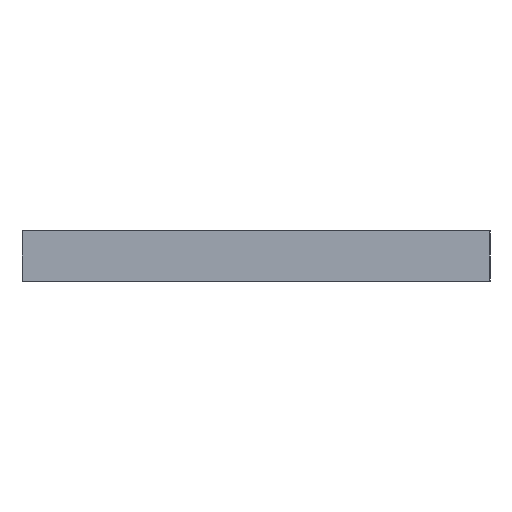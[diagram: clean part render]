
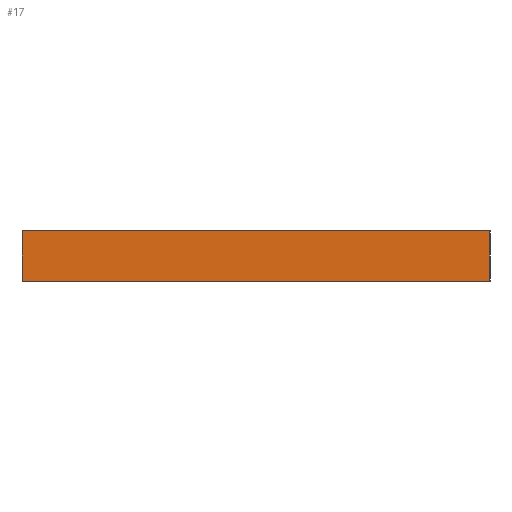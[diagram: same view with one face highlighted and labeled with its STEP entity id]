
A CAD part, left-side view. The second image highlights one B-rep face of the part: STEP entity #17.
In plain terms, the highlighted planar face has unit normal (-1, 0, 0).
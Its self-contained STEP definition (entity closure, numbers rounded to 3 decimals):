
#17 = ADVANCED_FACE('',(#18),#32,.F.);
#18 = FACE_BOUND('',#19,.F.);
#19 = EDGE_LOOP('',(#20,#55,#83,#111));
#20 = ORIENTED_EDGE('',*,*,#21,.F.);
#21 = EDGE_CURVE('',#22,#24,#26,.T.);
#22 = VERTEX_POINT('',#23);
#23 = CARTESIAN_POINT('',(52.,-17.,40.));
#24 = VERTEX_POINT('',#25);
#25 = CARTESIAN_POINT('',(52.,-17.,43.));
#26 = SURFACE_CURVE('',#27,(#31,#43),.PCURVE_S1.);
#27 = LINE('',#28,#29);
#28 = CARTESIAN_POINT('',(52.,-17.,40.));
#29 = VECTOR('',#30,1.);
#30 = DIRECTION('',(0.,0.,1.));
#31 = PCURVE('',#32,#37);
#32 = PLANE('',#33);
#33 = AXIS2_PLACEMENT_3D('',#34,#35,#36);
#34 = CARTESIAN_POINT('',(52.,-17.,40.));
#35 = DIRECTION('',(1.,0.,0.));
#36 = DIRECTION('',(0.,0.,1.));
#37 = DEFINITIONAL_REPRESENTATION('',(#38),#42);
#38 = LINE('',#39,#40);
#39 = CARTESIAN_POINT('',(0.,0.));
#40 = VECTOR('',#41,1.);
#41 = DIRECTION('',(1.,0.));
#42 = ( GEOMETRIC_REPRESENTATION_CONTEXT(2) 
PARAMETRIC_REPRESENTATION_CONTEXT() REPRESENTATION_CONTEXT('2D SPACE',''
  ) );
#43 = PCURVE('',#44,#49);
#44 = PLANE('',#45);
#45 = AXIS2_PLACEMENT_3D('',#46,#47,#48);
#46 = CARTESIAN_POINT('',(52.,-17.,40.));
#47 = DIRECTION('',(0.,1.,0.));
#48 = DIRECTION('',(0.,0.,1.));
#49 = DEFINITIONAL_REPRESENTATION('',(#50),#54);
#50 = LINE('',#51,#52);
#51 = CARTESIAN_POINT('',(0.,0.));
#52 = VECTOR('',#53,1.);
#53 = DIRECTION('',(1.,0.));
#54 = ( GEOMETRIC_REPRESENTATION_CONTEXT(2) 
PARAMETRIC_REPRESENTATION_CONTEXT() REPRESENTATION_CONTEXT('2D SPACE',''
  ) );
#55 = ORIENTED_EDGE('',*,*,#56,.T.);
#56 = EDGE_CURVE('',#22,#57,#59,.T.);
#57 = VERTEX_POINT('',#58);
#58 = CARTESIAN_POINT('',(52.,11.,40.));
#59 = SURFACE_CURVE('',#60,(#64,#71),.PCURVE_S1.);
#60 = LINE('',#61,#62);
#61 = CARTESIAN_POINT('',(52.,-17.,40.));
#62 = VECTOR('',#63,1.);
#63 = DIRECTION('',(0.,1.,0.));
#64 = PCURVE('',#32,#65);
#65 = DEFINITIONAL_REPRESENTATION('',(#66),#70);
#66 = LINE('',#67,#68);
#67 = CARTESIAN_POINT('',(0.,0.));
#68 = VECTOR('',#69,1.);
#69 = DIRECTION('',(0.,-1.));
#70 = ( GEOMETRIC_REPRESENTATION_CONTEXT(2) 
PARAMETRIC_REPRESENTATION_CONTEXT() REPRESENTATION_CONTEXT('2D SPACE',''
  ) );
#71 = PCURVE('',#72,#77);
#72 = PLANE('',#73);
#73 = AXIS2_PLACEMENT_3D('',#74,#75,#76);
#74 = CARTESIAN_POINT('',(52.,-17.,40.));
#75 = DIRECTION('',(0.,0.,1.));
#76 = DIRECTION('',(1.,0.,0.));
#77 = DEFINITIONAL_REPRESENTATION('',(#78),#82);
#78 = LINE('',#79,#80);
#79 = CARTESIAN_POINT('',(0.,0.));
#80 = VECTOR('',#81,1.);
#81 = DIRECTION('',(0.,1.));
#82 = ( GEOMETRIC_REPRESENTATION_CONTEXT(2) 
PARAMETRIC_REPRESENTATION_CONTEXT() REPRESENTATION_CONTEXT('2D SPACE',''
  ) );
#83 = ORIENTED_EDGE('',*,*,#84,.T.);
#84 = EDGE_CURVE('',#57,#85,#87,.T.);
#85 = VERTEX_POINT('',#86);
#86 = CARTESIAN_POINT('',(52.,11.,43.));
#87 = SURFACE_CURVE('',#88,(#92,#99),.PCURVE_S1.);
#88 = LINE('',#89,#90);
#89 = CARTESIAN_POINT('',(52.,11.,40.));
#90 = VECTOR('',#91,1.);
#91 = DIRECTION('',(0.,0.,1.));
#92 = PCURVE('',#32,#93);
#93 = DEFINITIONAL_REPRESENTATION('',(#94),#98);
#94 = LINE('',#95,#96);
#95 = CARTESIAN_POINT('',(0.,-28.));
#96 = VECTOR('',#97,1.);
#97 = DIRECTION('',(1.,0.));
#98 = ( GEOMETRIC_REPRESENTATION_CONTEXT(2) 
PARAMETRIC_REPRESENTATION_CONTEXT() REPRESENTATION_CONTEXT('2D SPACE',''
  ) );
#99 = PCURVE('',#100,#105);
#100 = PLANE('',#101);
#101 = AXIS2_PLACEMENT_3D('',#102,#103,#104);
#102 = CARTESIAN_POINT('',(52.,11.,40.));
#103 = DIRECTION('',(0.,1.,0.));
#104 = DIRECTION('',(0.,0.,1.));
#105 = DEFINITIONAL_REPRESENTATION('',(#106),#110);
#106 = LINE('',#107,#108);
#107 = CARTESIAN_POINT('',(0.,0.));
#108 = VECTOR('',#109,1.);
#109 = DIRECTION('',(1.,0.));
#110 = ( GEOMETRIC_REPRESENTATION_CONTEXT(2) 
PARAMETRIC_REPRESENTATION_CONTEXT() REPRESENTATION_CONTEXT('2D SPACE',''
  ) );
#111 = ORIENTED_EDGE('',*,*,#112,.F.);
#112 = EDGE_CURVE('',#24,#85,#113,.T.);
#113 = SURFACE_CURVE('',#114,(#118,#125),.PCURVE_S1.);
#114 = LINE('',#115,#116);
#115 = CARTESIAN_POINT('',(52.,-17.,43.));
#116 = VECTOR('',#117,1.);
#117 = DIRECTION('',(0.,1.,0.));
#118 = PCURVE('',#32,#119);
#119 = DEFINITIONAL_REPRESENTATION('',(#120),#124);
#120 = LINE('',#121,#122);
#121 = CARTESIAN_POINT('',(3.,0.));
#122 = VECTOR('',#123,1.);
#123 = DIRECTION('',(0.,-1.));
#124 = ( GEOMETRIC_REPRESENTATION_CONTEXT(2) 
PARAMETRIC_REPRESENTATION_CONTEXT() REPRESENTATION_CONTEXT('2D SPACE',''
  ) );
#125 = PCURVE('',#126,#131);
#126 = PLANE('',#127);
#127 = AXIS2_PLACEMENT_3D('',#128,#129,#130);
#128 = CARTESIAN_POINT('',(52.,-17.,43.));
#129 = DIRECTION('',(0.,0.,1.));
#130 = DIRECTION('',(1.,0.,0.));
#131 = DEFINITIONAL_REPRESENTATION('',(#132),#136);
#132 = LINE('',#133,#134);
#133 = CARTESIAN_POINT('',(0.,0.));
#134 = VECTOR('',#135,1.);
#135 = DIRECTION('',(0.,1.));
#136 = ( GEOMETRIC_REPRESENTATION_CONTEXT(2) 
PARAMETRIC_REPRESENTATION_CONTEXT() REPRESENTATION_CONTEXT('2D SPACE',''
  ) );
